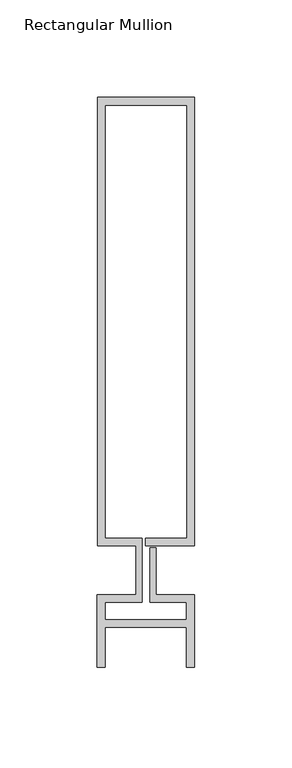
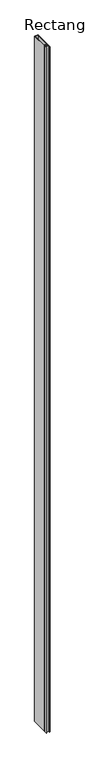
"""IFC4 building model written with IfcOpenShell, lengths in millimetres: member geometry, Rectangular Mullion : Reynaers_CW-50_Mullion-Transom_Vertical_230.5mm_Facecap-03."""

from ifc_helpers import new_model, si_unit, frame, origin, place, context, project, spatial, polyline, outline, extrude, source, transform, mapped, element, save


def rectangular_mullion_9c625121(model_context):
    return source(origin(), model_context, "Body", "SweptSolid", [
        extrude(outline(polyline([(-24.8004059, 243.0), (25.1995941, 243.0), (25.1995941, 12.5), (0.0, 12.5), (0.0, 16.5), (21.1995941, 16.5), (21.1995941, 239.0), (-20.8004059, 239.0), (-20.8004059, 16.5), (-1.9004059, 16.5), (-1.9004059, -16.5), (-20.994845, -16.5), (-20.994845, -25.3268728), (20.994845, -25.3268728), (20.994845, -16.5), (2.2995941, -16.5), (2.2995941, 11.5), (5.2995941, 11.5), (5.2995941, -12.5), (24.994845, -12.5), (24.994845, -49.8), (20.994845, -49.8), (20.994845, -29.3268728), (-20.994845, -29.3268728), (-20.994845, -49.8), (-24.994845, -49.8), (-24.994845, -12.5), (-4.9004059, -12.5), (-4.9004059, 12.5), (-24.8004059, 12.5), (-24.8004059, 243.0)])), frame((0.0, 0.0, -10400.0), z_axis=(0.0, 0.0, 1.0), x_axis=(1.0, 0.0, 0.0)), (0.0, 0.0, 1.0), 10400.0),
    ])


if __name__ == "__main__":
    model = new_model("IFC4")
    model_context = context("Model", 3, world=origin())
    ifc_project = project(units=[si_unit("LENGTHUNIT", "METRE", prefix="MILLI")], contexts=[model_context])
    site = spatial("IfcSite", under=ifc_project)
    building = spatial("IfcBuilding", under=site)
    placement = place(None, origin())
    rectangular_mullion_shape = rectangular_mullion_9c625121(model_context)
    element("IfcMember", 1, ObjectType="Rectangular Mullion : Reynaers_CW-50_Mullion-Transom_Vertical_230.5mm_Facecap-03", at=placement, inside=building, context=model_context, shape_type="MappedRepresentation", body=[
        mapped(rectangular_mullion_shape, transform((0.0, 0.0, 0.0), x_axis=(1.0, 0.0, 0.0), y_axis=(0.0, 1.0, 0.0), z_axis=(0.0, 0.0, 1.0))),
    ])
    save(model, "model.ifc")
